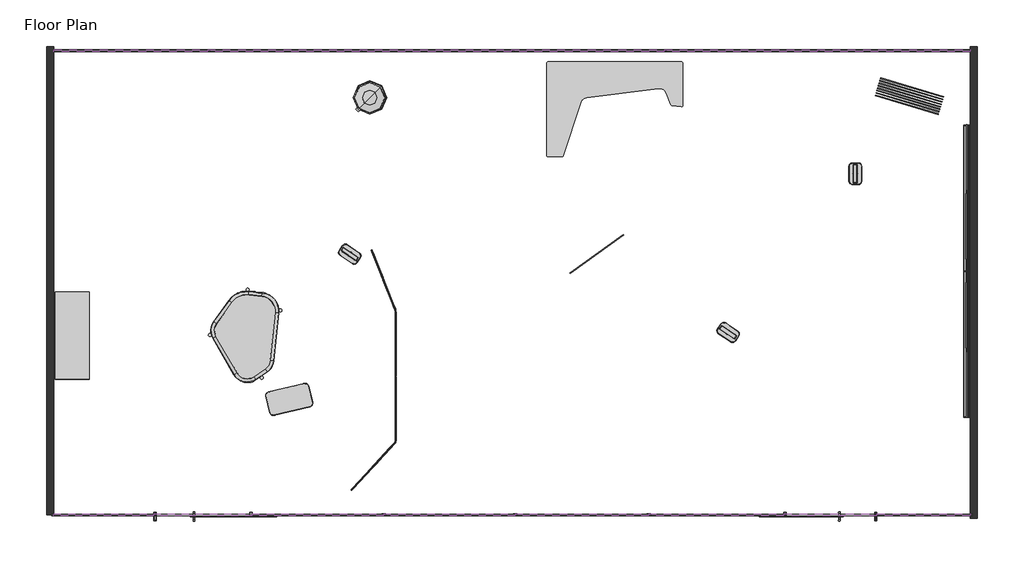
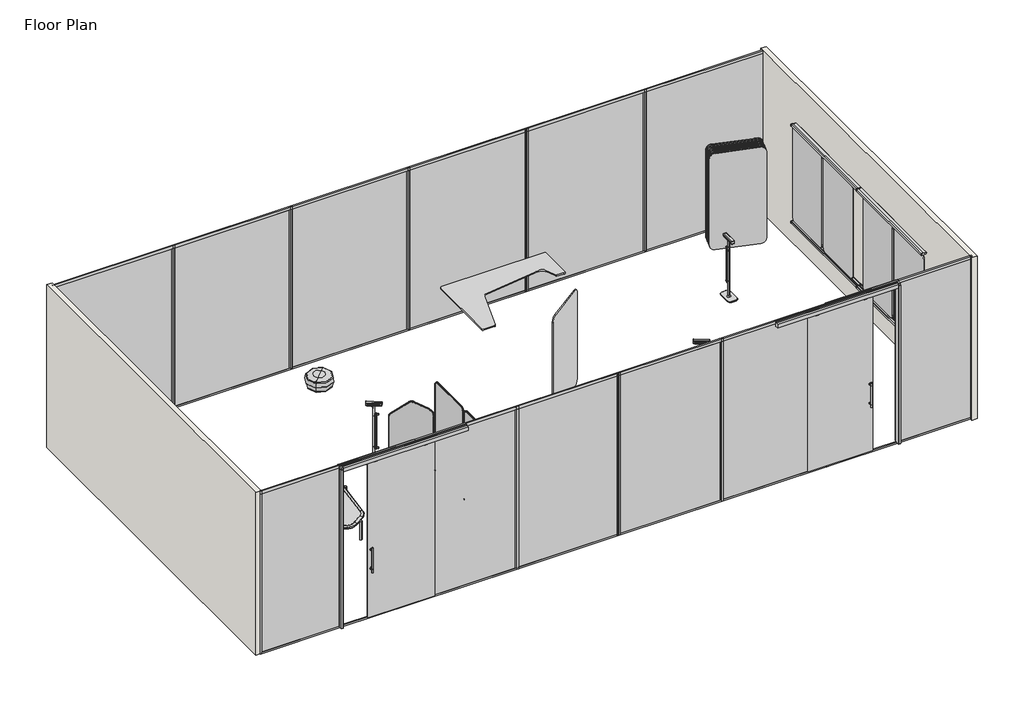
# One storey, incomplete: 29 furniture elements, 28 members, 14 plates, 2 walls.
"""IFC4 building model written with IfcOpenShell, lengths in millimetres."""

from ifc_helpers import new_model, si_unit, origin, origin_with_axes, place, context, project, spatial, polyline, outline, extrude, transform, mapped, element, save
from components import furniture_d2e51079, coffee_table_8e93f0d2, decor_door_e15c977f, footrest_3d02c9c8, steelcase_emea_flex_markerboard_tall_933f601b, steelcase_emea_flex_markerboard_tall_489af712, steelcase_emea_flex_screen_freestanding_angled_e22ecdc3, steelcase_emea_flex_screen_freestanding_short_9034ac6e, steelcase_emea_flex_wall_rails_1800h_6c3f3ac9, steelcase_emea_flex_wall_rails_1800h_d6aaea59, table_1_725a874a, tall_e2d5bbf9, wooden_leg_h150_7fd3a910, rectangular_mullion_c1dfd97e, rectangular_mullion_0724d02b, rectangular_mullion_766c7d85, rectangular_mullion_99bb5b20, rectangular_mullion_12d4d7d7, rectangular_mullion_3c61a903, rectangular_mullion_b213ceae, rectangular_mullion_d54b9081, rectangular_mullion_5fc4769d, rectangular_mullion_lite_scale_glazing_ceiling_track_7f29f42d, rectangular_mullion_lite_scale_glazing_ceiling_track_8b229d59, rectangular_mullion_lite_scale_glazing_ceiling_track_78d2ef61, rectangular_mullion_lite_scale_glazing_ceiling_track_bc57fc9f, rectangular_mullion_lite_scale_glazing_ceiling_track_1d171377, rectangular_mullion_lite_scale_glazing_ceiling_track_9d31619b, rectangular_mullion_lite_scale_glazing_ceiling_track_247b17cf, rectangular_mullion_lite_scale_glazing_ceiling_track_e914e820, rectangular_mullion_lite_scale_glazing_ceiling_track_eb9bd2f9, glass_door_9964f78d, glass_door_0c262cc2, steelcase_privacy_wall_gs_lite_scale_glazing_glass_a86f505f, steelcase_privacy_wall_gs_lite_scale_glazing_glass_b524abd1, steelcase_privacy_wall_gs_lite_scale_glazing_glass_143cb42d, steelcase_privacy_wall_gs_lite_scale_glazing_glass_9b0299d3, steelcase_privacy_wall_gs_lite_scale_glazing_glass_b0e38d0d, steelcase_privacy_wall_gs_lite_scale_glazing_glass_13d12927, steelcase_privacy_wall_gs_lite_scale_glazing_glass_f0b9d819, steelcase_privacy_wall_gs_lite_scale_glazing_glass_e867c78d, steelcase_privacy_wall_gs_lite_scale_glazing_glass_3fe1f831

model = new_model("IFC4")

# Units and contexts
model_context = context("Model", 3, world=origin())
ifc_project = project(units=[si_unit("LENGTHUNIT", "METRE", prefix="MILLI")], contexts=[model_context])

# Site, building, storey
site = spatial("IfcSite", under=ifc_project)
building = spatial("IfcBuilding", under=site)
storey = spatial("IfcBuildingStorey", under=building, Name="Floor Plan", Elevation=0.0)

# Furniture
placement = place(None, origin())
furniture_shape = furniture_d2e51079(model_context)
element("IfcFurniture", 1, ObjectType="Steelcase Coalesse EMEA - Lagunitas - Personal Table : 13D x 24W", at=placement, inside=storey, context=model_context, shape_type="MappedRepresentation", body=[
    mapped(furniture_shape, transform((919.0918551, -109304.5634449, 0.0), x_axis=(0.9734940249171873, 0.22871244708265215, 0.0), y_axis=(-0.22871244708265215, 0.9734940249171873, 0.0), z_axis=(0.0, 0.0, 1.0))),
])
coffee_table_shape = coffee_table_8e93f0d2(model_context)
element("IfcFurniture", 2, ObjectType="Bolia - Island - Coffee Table : Coffee Table", at=placement, inside=storey, context=model_context, shape_type="MappedRepresentation", body=[
    mapped(coffee_table_shape, transform((432.0856459, -108324.9960832, 0.0), x_axis=(-0.1579823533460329, 0.987441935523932, 0.0), y_axis=(-0.987441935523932, -0.1579823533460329, 0.0), z_axis=(0.0, 0.0, 1.0))),
])
decor_door_shape = decor_door_e15c977f(model_context)
element("IfcFurniture", 3, ObjectType="Steelcase EMEA - Volum Art - Cupboard - Credenza - Hinged Door : Decor Door", at=placement, inside=storey, context=model_context, shape_type="MappedRepresentation", body=[
    mapped(decor_door_shape, transform((-2057.37583, -108431.6462731, 122.7380685), x_axis=(0.0, 1.0, 0.0), y_axis=(-1.0, 0.0, 0.0), z_axis=(0.0, 0.0, 1.0))),
])
footrest_shape = footrest_3d02c9c8(model_context)
element("IfcFurniture", 4, ObjectType="Steelcase EMEA - Seating - Brody - Footrest : Footrest", at=placement, inside=storey, context=model_context, shape_type="MappedRepresentation", body=[
    mapped(footrest_shape, transform((2023.9309623, -105163.2231655, 0.0), x_axis=(1.0, 0.0, 0.0), y_axis=(0.0, 1.0, 0.0), z_axis=(0.0, 0.0, 1.0))),
])
steelcase_emea_flex_markerboard_tall_shape = steelcase_emea_flex_markerboard_tall_933f601b(model_context)
element("IfcFurniture", 5, ObjectType="Steelcase EMEA - Flex - Markerboard : Tall", at=placement, inside=storey, context=model_context, shape_type="MappedRepresentation", body=[
    mapped(steelcase_emea_flex_markerboard_tall_shape, transform((9885.8391666, -105161.5521744, 127.0), x_axis=(-0.9577805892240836, 0.28750016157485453, 0.0), y_axis=(-0.28750016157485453, -0.9577805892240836, 0.0), z_axis=(0.0, 0.0, 1.0))),
])
element("IfcFurniture", 6, ObjectType="Steelcase EMEA - Flex - Markerboard : Tall", at=placement, inside=storey, context=model_context, shape_type="MappedRepresentation", body=[
    mapped(steelcase_emea_flex_markerboard_tall_shape, transform((9875.5520513, -105195.8227616, 127.0), x_axis=(-0.9577805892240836, 0.28750016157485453, 0.0), y_axis=(-0.28750016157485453, -0.9577805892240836, 0.0), z_axis=(0.0, 0.0, 1.0))),
])
element("IfcFurniture", 7, ObjectType="Steelcase EMEA - Flex - Markerboard : Tall", at=placement, inside=storey, context=model_context, shape_type="MappedRepresentation", body=[
    mapped(steelcase_emea_flex_markerboard_tall_shape, transform((9865.381733, -105229.70425, 127.0), x_axis=(-0.9577805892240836, 0.28750016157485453, 0.0), y_axis=(-0.28750016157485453, -0.9577805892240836, 0.0), z_axis=(0.0, 0.0, 1.0))),
])
element("IfcFurniture", 8, ObjectType="Steelcase EMEA - Flex - Markerboard : Tall", at=placement, inside=storey, context=model_context, shape_type="MappedRepresentation", body=[
    mapped(steelcase_emea_flex_markerboard_tall_shape, transform((9855.310243, -105263.2565012, 127.0), x_axis=(-0.9577805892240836, 0.28750016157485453, 0.0), y_axis=(-0.28750016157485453, -0.9577805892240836, 0.0), z_axis=(0.0, 0.0, 1.0))),
])
element("IfcFurniture", 9, ObjectType="Steelcase EMEA - Flex - Markerboard : Tall", at=placement, inside=storey, context=model_context, shape_type="MappedRepresentation", body=[
    mapped(steelcase_emea_flex_markerboard_tall_shape, transform((9845.0950029, -105297.2876428, 127.0), x_axis=(-0.9577805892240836, 0.28750016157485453, 0.0), y_axis=(-0.28750016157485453, -0.9577805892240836, 0.0), z_axis=(0.0, 0.0, 1.0))),
])
element("IfcFurniture", 10, ObjectType="Steelcase EMEA - Flex - Markerboard : Tall", at=placement, inside=storey, context=model_context, shape_type="MappedRepresentation", body=[
    mapped(steelcase_emea_flex_markerboard_tall_shape, transform((9835.0235128, -105330.8398941, 127.0), x_axis=(-0.9577805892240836, 0.28750016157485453, 0.0), y_axis=(-0.28750016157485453, -0.9577805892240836, 0.0), z_axis=(0.0, 0.0, 1.0))),
])
element("IfcFurniture", 11, ObjectType="Steelcase EMEA - Flex - Markerboard : Tall", at=placement, inside=storey, context=model_context, shape_type="MappedRepresentation", body=[
    mapped(steelcase_emea_flex_markerboard_tall_shape, transform((9825.0688199, -105364.0030464, 127.0), x_axis=(-0.9577805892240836, 0.28750016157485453, 0.0), y_axis=(-0.28750016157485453, -0.9577805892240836, 0.0), z_axis=(0.0, 0.0, 1.0))),
])
element("IfcFurniture", 12, ObjectType="Steelcase EMEA - Flex - Markerboard : Tall", at=placement, inside=storey, context=model_context, shape_type="MappedRepresentation", body=[
    mapped(steelcase_emea_flex_markerboard_tall_shape, transform((9814.7817046, -105398.2736337, 127.0), x_axis=(-0.9577805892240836, 0.28750016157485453, 0.0), y_axis=(-0.28750016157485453, -0.9577805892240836, 0.0), z_axis=(0.0, 0.0, 1.0))),
])
element("IfcFurniture", 13, ObjectType="Steelcase EMEA - Flex - Markerboard : Tall", at=placement, inside=storey, context=model_context, shape_type="MappedRepresentation", body=[
    mapped(steelcase_emea_flex_markerboard_tall_shape, transform((4766.9744683, -107567.7024774, 0.0), x_axis=(0.8105980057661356, 0.5856029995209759, 0.0), y_axis=(-0.5856029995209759, 0.8105980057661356, 0.0), z_axis=(0.0, 0.0, 1.0))),
])
element("IfcFurniture", 14, ObjectType="Steelcase EMEA - Flex - Markerboard : Tall", at=placement, inside=storey, context=model_context, shape_type="MappedRepresentation", body=[
    mapped(steelcase_emea_flex_markerboard_tall_shape, transform((10199.3056017, -109552.0594285, 484.9937772), x_axis=(0.0, 1.0, 0.0), y_axis=(-1.0, 0.0, 0.0), z_axis=(0.0, 0.0, 1.0))),
])
element("IfcFurniture", 15, ObjectType="Steelcase EMEA - Flex - Markerboard : Tall", at=placement, inside=storey, context=model_context, shape_type="MappedRepresentation", body=[
    mapped(steelcase_emea_flex_markerboard_tall_shape, transform((10195.7415767, -108602.439998, 484.9937772), x_axis=(0.0, 1.0, 0.0), y_axis=(-1.0, 0.0, 0.0), z_axis=(0.0, 0.0, 1.0))),
])
steelcase_emea_flex_markerboard_tall_2_shape = steelcase_emea_flex_markerboard_tall_489af712(model_context)
element("IfcFurniture", 16, ObjectType="Steelcase EMEA - Flex - Markerboard : Tall", at=placement, inside=storey, context=model_context, shape_type="MappedRepresentation", body=[
    mapped(steelcase_emea_flex_markerboard_tall_2_shape, transform((10199.3056017, -105532.7619584, 484.9937772), x_axis=(0.0, -1.0, 0.0), y_axis=(1.0, 0.0, 0.0), z_axis=(0.0, 0.0, 1.0))),
])
element("IfcFurniture", 17, ObjectType="Steelcase EMEA - Flex - Markerboard : Tall", at=placement, inside=storey, context=model_context, shape_type="MappedRepresentation", body=[
    mapped(steelcase_emea_flex_markerboard_tall_2_shape, transform((10195.7415767, -106482.3813889, 484.9937772), x_axis=(0.0, -1.0, 0.0), y_axis=(1.0, 0.0, 0.0), z_axis=(0.0, 0.0, 1.0))),
])
steelcase_emea_flex_screen_freestanding_angled_shape = steelcase_emea_flex_screen_freestanding_angled_e22ecdc3(model_context)
element("IfcFurniture", 18, ObjectType="Steelcase EMEA - Flex - Screen - Freestanding : Angled", at=placement, inside=storey, context=model_context, shape_type="MappedRepresentation", body=[
    mapped(steelcase_emea_flex_screen_freestanding_angled_shape, transform((2378.6570299, -108091.2274946, 0.0), x_axis=(-0.36864778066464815, 0.9295691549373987, 0.0), y_axis=(-0.9295691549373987, -0.36864778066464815, 0.0), z_axis=(0.0, 0.0, 1.0))),
])
element("IfcFurniture", 19, ObjectType="Steelcase EMEA - Flex - Screen - Freestanding : Angled", at=placement, inside=storey, context=model_context, shape_type="MappedRepresentation", body=[
    mapped(steelcase_emea_flex_screen_freestanding_angled_shape, transform((2379.6084787, -109887.2504267, 0.0), x_axis=(-0.6757246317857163, -0.7371541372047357, 0.0), y_axis=(0.7371541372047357, -0.6757246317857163, 0.0), z_axis=(0.0, 0.0, 1.0))),
])
steelcase_emea_flex_screen_freestanding_short_shape = steelcase_emea_flex_screen_freestanding_short_9034ac6e(model_context)
element("IfcFurniture", 20, ObjectType="Steelcase EMEA - Flex - Screen - Freestanding : Short", at=placement, inside=storey, context=model_context, shape_type="MappedRepresentation", body=[
    mapped(steelcase_emea_flex_screen_freestanding_short_shape, transform((2376.777532, -109885.6061825, 0.0), x_axis=(0.0, 1.0, 0.0), y_axis=(-1.0, 0.0, 0.0), z_axis=(0.0, 0.0, 1.0))),
])
element("IfcFurniture", 21, ObjectType="Steelcase EMEA - Flex - Screen - Freestanding : Short", at=placement, inside=storey, context=model_context, shape_type="MappedRepresentation", body=[
    mapped(steelcase_emea_flex_screen_freestanding_short_shape, transform((2376.777532, -108994.6677502, 0.0), x_axis=(0.0, 1.0, 0.0), y_axis=(-1.0, 0.0, 0.0), z_axis=(0.0, 0.0, 1.0))),
])
steelcase_emea_flex_wall_rails_1800h_shape = steelcase_emea_flex_wall_rails_1800h_6c3f3ac9(model_context)
element("IfcFurniture", 22, ObjectType="Steelcase EMEA - Flex - Wall Rails : 1800H", at=placement, inside=storey, context=model_context, shape_type="MappedRepresentation", body=[
    mapped(steelcase_emea_flex_wall_rails_1800h_shape, transform((10163.991601, -109552.0594285, 0.0), x_axis=(0.0, 1.0, 0.0), y_axis=(-1.0, 0.0, 0.0), z_axis=(0.0, 0.0, 1.0))),
])
steelcase_emea_flex_wall_rails_1800h_2_shape = steelcase_emea_flex_wall_rails_1800h_d6aaea59(model_context)
element("IfcFurniture", 23, ObjectType="Steelcase EMEA - Flex - Wall Rails : 1800H", at=placement, inside=storey, context=model_context, shape_type="MappedRepresentation", body=[
    mapped(steelcase_emea_flex_wall_rails_1800h_2_shape, transform((10163.991601, -105542.7619584, 0.0), x_axis=(0.0, -1.0, 0.0), y_axis=(1.0, 0.0, 0.0), z_axis=(0.0, 0.0, 1.0))),
])
table_1_shape = table_1_725a874a(model_context)
element("IfcFurniture", 24, ObjectType="Orangebox_EM_SpaceDivision_Pod_Air3_Furniture_Table_Minipod : Table 1", at=placement, inside=storey, context=model_context, shape_type="MappedRepresentation", body=[
    mapped(table_1_shape, transform((4447.561739, -104651.8114665, 0.0), x_axis=(1.0, 0.0, 0.0), y_axis=(0.0, 1.0, 0.0), z_axis=(0.0, 0.0, 1.0))),
])
tall_shape = tall_e2d5bbf9(model_context)
element("IfcFurniture", 25, ObjectType="Steelcase EMEA - Flex - Powerstand : Tall", at=placement, inside=storey, context=model_context, shape_type="MappedRepresentation", body=[
    mapped(tall_shape, transform((8679.422102, -106209.3785576, 0.0), x_axis=(0.0, 1.0, 0.0), y_axis=(-1.0, 0.0, 0.0), z_axis=(0.0, 0.0, 1.0))),
])
element("IfcFurniture", 26, ObjectType="Steelcase EMEA - Flex - Powerstand : Tall", at=placement, inside=storey, context=model_context, shape_type="MappedRepresentation", body=[
    mapped(tall_shape, transform((6935.2514477, -108385.4562743, 0.0), x_axis=(0.8311951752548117, -0.5559807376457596, 0.0), y_axis=(0.5559807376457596, 0.8311951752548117, 0.0), z_axis=(0.0, 0.0, 1.0))),
])
element("IfcFurniture", 27, ObjectType="Steelcase EMEA - Flex - Powerstand : Tall", at=placement, inside=storey, context=model_context, shape_type="MappedRepresentation", body=[
    mapped(tall_shape, transform((1748.2210614, -107312.8270945, 0.0), x_axis=(0.8311951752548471, -0.5559807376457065, 0.0), y_axis=(0.5559807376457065, 0.8311951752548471, 0.0), z_axis=(0.0, 0.0, 1.0))),
])
wooden_leg_h150_shape = wooden_leg_h150_7fd3a910(model_context)
element("IfcFurniture", 28, ObjectType="Steelcase EMEA - Volum Art - Accessories - Leg : Wooden Leg H150", at=placement, inside=storey, context=model_context, shape_type="MappedRepresentation", body=[
    mapped(wooden_leg_h150_shape, transform((-2292.37583, -108019.341485, 0.0), x_axis=(0.0, 1.0, 0.0), y_axis=(-1.0, 0.0, 0.0), z_axis=(0.0, 0.0, 1.0))),
])
element("IfcFurniture", 29, ObjectType="Steelcase EMEA - Volum Art - Accessories - Leg : Wooden Leg H150", at=placement, inside=storey, context=model_context, shape_type="MappedRepresentation", body=[
    mapped(wooden_leg_h150_shape, transform((-2291.3758417, -109021.8129418, 0.0), x_axis=(0.0, 1.0, 0.0), y_axis=(-1.0, 0.0, 0.0), z_axis=(0.0, 0.0, 1.0))),
])

# Members
rectangular_mullion_shape = rectangular_mullion_c1dfd97e(model_context)
element("IfcMember", 30, ObjectType="Rectangular Mullion : Lite Scale Glasing - Base Trim", at=placement, inside=storey, context=model_context, shape_type="MappedRepresentation", body=[
    mapped(rectangular_mullion_shape, transform((-2308.4050434, -110889.9930941, 0.0), x_axis=(0.0, 0.0, -1.0), y_axis=(0.0, -1.0, 0.0), z_axis=(-1.0, 0.0, 0.0))),
])
rectangular_mullion_2_shape = rectangular_mullion_0724d02b(model_context)
element("IfcMember", 31, ObjectType="Rectangular Mullion : Lite Scale Glasing - Base Trim", at=placement, inside=storey, context=model_context, shape_type="MappedRepresentation", body=[
    mapped(rectangular_mullion_2_shape, transform((-936.8050434, -110889.9930941, 0.0), x_axis=(0.0, 0.0, -1.0), y_axis=(0.0, -1.0, 0.0), z_axis=(-1.0, 0.0, 0.0))),
])
rectangular_mullion_3_shape = rectangular_mullion_766c7d85(model_context)
element("IfcMember", 32, ObjectType="Rectangular Mullion : Lite Scale Glasing - Base Trim", at=placement, inside=storey, context=model_context, shape_type="MappedRepresentation", body=[
    mapped(rectangular_mullion_3_shape, transform((409.3949566, -110889.9930941, 0.0), x_axis=(0.0, 0.0, -1.0), y_axis=(0.0, -1.0, 0.0), z_axis=(-1.0, 0.0, 0.0))),
])
element("IfcMember", 33, ObjectType="Rectangular Mullion : Lite Scale Glasing - Base Trim", at=placement, inside=storey, context=model_context, shape_type="MappedRepresentation", body=[
    mapped(rectangular_mullion_3_shape, transform((2212.7949566, -110889.9930941, 0.0), x_axis=(0.0, 0.0, -1.0), y_axis=(0.0, -1.0, 0.0), z_axis=(-1.0, 0.0, 0.0))),
])
rectangular_mullion_4_shape = rectangular_mullion_99bb5b20(model_context)
element("IfcMember", 34, ObjectType="Rectangular Mullion : Lite Scale Glasing - Base Trim", at=placement, inside=storey, context=model_context, shape_type="MappedRepresentation", body=[
    mapped(rectangular_mullion_4_shape, transform((4016.1949566, -110889.9930941, 0.0), x_axis=(0.0, 0.0, -1.0), y_axis=(0.0, -1.0, 0.0), z_axis=(-1.0, 0.0, 0.0))),
])
rectangular_mullion_5_shape = rectangular_mullion_12d4d7d7(model_context)
element("IfcMember", 35, ObjectType="Rectangular Mullion : Lite Scale Glasing - Base Trim", at=placement, inside=storey, context=model_context, shape_type="MappedRepresentation", body=[
    mapped(rectangular_mullion_5_shape, transform((5844.9949566, -110889.9930941, 0.0), x_axis=(0.0, 0.0, -1.0), y_axis=(0.0, -1.0, 0.0), z_axis=(-1.0, 0.0, 0.0))),
])
rectangular_mullion_6_shape = rectangular_mullion_3c61a903(model_context)
element("IfcMember", 36, ObjectType="Rectangular Mullion : Lite Scale Glasing - Base Trim", at=placement, inside=storey, context=model_context, shape_type="MappedRepresentation", body=[
    mapped(rectangular_mullion_6_shape, transform((8976.5766061, -110889.9930941, 0.0), x_axis=(0.0, 0.0, -1.0), y_axis=(0.0, -1.0, 0.0), z_axis=(-1.0, 0.0, 0.0))),
])
element("IfcMember", 37, ObjectType="Rectangular Mullion : Lite Scale Glasing - Base Trim", at=placement, inside=storey, context=model_context, shape_type="MappedRepresentation", body=[
    mapped(rectangular_mullion_6_shape, transform((7699.1949566, -110889.9930941, 0.0), x_axis=(0.0, 0.0, -1.0), y_axis=(0.0, -1.0, 0.0), z_axis=(-1.0, 0.0, 0.0))),
])
rectangular_mullion_7_shape = rectangular_mullion_b213ceae(model_context)
element("IfcMember", 38, ObjectType="Rectangular Mullion : Lite Scale Glasing - Base Trim", at=placement, inside=storey, context=model_context, shape_type="MappedRepresentation", body=[
    mapped(rectangular_mullion_7_shape, transform((-2308.4050434, -104520.8121728, 0.0), x_axis=(0.0, 0.0, -1.0), y_axis=(0.0, -1.0, 0.0), z_axis=(-1.0, 0.0, 0.0))),
])
rectangular_mullion_8_shape = rectangular_mullion_d54b9081(model_context)
element("IfcMember", 39, ObjectType="Rectangular Mullion : Lite Scale Glasing - Base Trim", at=placement, inside=storey, context=model_context, shape_type="MappedRepresentation", body=[
    mapped(rectangular_mullion_8_shape, transform((-200.2050434, -104520.8121728, 0.0), x_axis=(0.0, 0.0, -1.0), y_axis=(0.0, -1.0, 0.0), z_axis=(-1.0, 0.0, 0.0))),
])
element("IfcMember", 40, ObjectType="Rectangular Mullion : Lite Scale Glasing - Base Trim", at=placement, inside=storey, context=model_context, shape_type="MappedRepresentation", body=[
    mapped(rectangular_mullion_8_shape, transform((1882.5949566, -104520.8121728, 0.0), x_axis=(0.0, 0.0, -1.0), y_axis=(0.0, -1.0, 0.0), z_axis=(-1.0, 0.0, 0.0))),
])
rectangular_mullion_9_shape = rectangular_mullion_5fc4769d(model_context)
element("IfcMember", 41, ObjectType="Rectangular Mullion : Lite Scale Glasing - Base Trim", at=placement, inside=storey, context=model_context, shape_type="MappedRepresentation", body=[
    mapped(rectangular_mullion_9_shape, transform((3965.3949566, -104520.8121728, 0.0), x_axis=(0.0, 0.0, -1.0), y_axis=(0.0, -1.0, 0.0), z_axis=(-1.0, 0.0, 0.0))),
])
element("IfcMember", 42, ObjectType="Rectangular Mullion : Lite Scale Glasing - Base Trim", at=placement, inside=storey, context=model_context, shape_type="MappedRepresentation", body=[
    mapped(rectangular_mullion_9_shape, transform((6061.5827229, -104520.8121728, 0.0), x_axis=(0.0, 0.0, -1.0), y_axis=(0.0, -1.0, 0.0), z_axis=(-1.0, 0.0, 0.0))),
])
element("IfcMember", 43, ObjectType="Rectangular Mullion : Lite Scale Glasing - Base Trim", at=placement, inside=storey, context=model_context, shape_type="MappedRepresentation", body=[
    mapped(rectangular_mullion_9_shape, transform((8157.7704892, -104520.8121728, 0.0), x_axis=(0.0, 0.0, -1.0), y_axis=(0.0, -1.0, 0.0), z_axis=(-1.0, 0.0, 0.0))),
])
rectangular_mullion_lite_scale_glazing_ceiling_track_shape = rectangular_mullion_lite_scale_glazing_ceiling_track_7f29f42d(model_context)
element("IfcMember", 44, ObjectType="Rectangular Mullion : Lite Scale Glazing - Ceiling Track", at=placement, inside=storey, context=model_context, shape_type="MappedRepresentation", body=[
    mapped(rectangular_mullion_lite_scale_glazing_ceiling_track_shape, transform((-936.8050434, -110889.9930941, 3048.0), x_axis=(0.0, 0.0, 1.0), y_axis=(0.0, -1.0, 0.0), z_axis=(1.0, 0.0, 0.0))),
])
rectangular_mullion_lite_scale_glazing_ceiling_track_2_shape = rectangular_mullion_lite_scale_glazing_ceiling_track_8b229d59(model_context)
element("IfcMember", 45, ObjectType="Rectangular Mullion : Lite Scale Glazing - Ceiling Track", at=placement, inside=storey, context=model_context, shape_type="MappedRepresentation", body=[
    mapped(rectangular_mullion_lite_scale_glazing_ceiling_track_2_shape, transform((409.3949566, -110889.9930941, 3048.0), x_axis=(0.0, 0.0, 1.0), y_axis=(0.0, -1.0, 0.0), z_axis=(1.0, 0.0, 0.0))),
])
rectangular_mullion_lite_scale_glazing_ceiling_track_3_shape = rectangular_mullion_lite_scale_glazing_ceiling_track_78d2ef61(model_context)
element("IfcMember", 46, ObjectType="Rectangular Mullion : Lite Scale Glazing - Ceiling Track", at=placement, inside=storey, context=model_context, shape_type="MappedRepresentation", body=[
    mapped(rectangular_mullion_lite_scale_glazing_ceiling_track_3_shape, transform((2212.7949566, -110889.9930941, 3048.0), x_axis=(0.0, 0.0, 1.0), y_axis=(0.0, -1.0, 0.0), z_axis=(1.0, 0.0, 0.0))),
])
element("IfcMember", 47, ObjectType="Rectangular Mullion : Lite Scale Glazing - Ceiling Track", at=placement, inside=storey, context=model_context, shape_type="MappedRepresentation", body=[
    mapped(rectangular_mullion_lite_scale_glazing_ceiling_track_3_shape, transform((4016.1949566, -110889.9930941, 3048.0), x_axis=(0.0, 0.0, 1.0), y_axis=(0.0, -1.0, 0.0), z_axis=(1.0, 0.0, 0.0))),
])
rectangular_mullion_lite_scale_glazing_ceiling_track_4_shape = rectangular_mullion_lite_scale_glazing_ceiling_track_bc57fc9f(model_context)
element("IfcMember", 48, ObjectType="Rectangular Mullion : Lite Scale Glazing - Ceiling Track", at=placement, inside=storey, context=model_context, shape_type="MappedRepresentation", body=[
    mapped(rectangular_mullion_lite_scale_glazing_ceiling_track_4_shape, transform((5844.9949566, -110889.9930941, 3048.0), x_axis=(0.0, 0.0, 1.0), y_axis=(0.0, -1.0, 0.0), z_axis=(1.0, 0.0, 0.0))),
])
rectangular_mullion_lite_scale_glazing_ceiling_track_5_shape = rectangular_mullion_lite_scale_glazing_ceiling_track_1d171377(model_context)
element("IfcMember", 49, ObjectType="Rectangular Mullion : Lite Scale Glazing - Ceiling Track", at=placement, inside=storey, context=model_context, shape_type="MappedRepresentation", body=[
    mapped(rectangular_mullion_lite_scale_glazing_ceiling_track_5_shape, transform((7699.1949566, -110889.9930941, 3048.0), x_axis=(0.0, 0.0, 1.0), y_axis=(0.0, -1.0, 0.0), z_axis=(1.0, 0.0, 0.0))),
])
rectangular_mullion_lite_scale_glazing_ceiling_track_6_shape = rectangular_mullion_lite_scale_glazing_ceiling_track_9d31619b(model_context)
element("IfcMember", 50, ObjectType="Rectangular Mullion : Lite Scale Glazing - Ceiling Track", at=placement, inside=storey, context=model_context, shape_type="MappedRepresentation", body=[
    mapped(rectangular_mullion_lite_scale_glazing_ceiling_track_6_shape, transform((10253.9582555, -110889.9930941, 3048.0), x_axis=(0.0, 0.0, 1.0), y_axis=(0.0, -1.0, 0.0), z_axis=(1.0, 0.0, 0.0))),
])
element("IfcMember", 51, ObjectType="Rectangular Mullion : Lite Scale Glazing - Ceiling Track", at=placement, inside=storey, context=model_context, shape_type="MappedRepresentation", body=[
    mapped(rectangular_mullion_lite_scale_glazing_ceiling_track_6_shape, transform((8976.5766061, -110889.9930941, 3048.0), x_axis=(0.0, 0.0, 1.0), y_axis=(0.0, -1.0, 0.0), z_axis=(1.0, 0.0, 0.0))),
])
rectangular_mullion_lite_scale_glazing_ceiling_track_7_shape = rectangular_mullion_lite_scale_glazing_ceiling_track_247b17cf(model_context)
element("IfcMember", 52, ObjectType="Rectangular Mullion : Lite Scale Glazing - Ceiling Track", at=placement, inside=storey, context=model_context, shape_type="MappedRepresentation", body=[
    mapped(rectangular_mullion_lite_scale_glazing_ceiling_track_7_shape, transform((-200.2050434, -104520.8121728, 3048.0), x_axis=(0.0, 0.0, 1.0), y_axis=(0.0, -1.0, 0.0), z_axis=(1.0, 0.0, 0.0))),
])
rectangular_mullion_lite_scale_glazing_ceiling_track_8_shape = rectangular_mullion_lite_scale_glazing_ceiling_track_e914e820(model_context)
element("IfcMember", 53, ObjectType="Rectangular Mullion : Lite Scale Glazing - Ceiling Track", at=placement, inside=storey, context=model_context, shape_type="MappedRepresentation", body=[
    mapped(rectangular_mullion_lite_scale_glazing_ceiling_track_8_shape, transform((1882.5949566, -104520.8121728, 3048.0), x_axis=(0.0, 0.0, 1.0), y_axis=(0.0, -1.0, 0.0), z_axis=(1.0, 0.0, 0.0))),
])
element("IfcMember", 54, ObjectType="Rectangular Mullion : Lite Scale Glazing - Ceiling Track", at=placement, inside=storey, context=model_context, shape_type="MappedRepresentation", body=[
    mapped(rectangular_mullion_lite_scale_glazing_ceiling_track_8_shape, transform((3965.3949566, -104520.8121728, 3048.0), x_axis=(0.0, 0.0, 1.0), y_axis=(0.0, -1.0, 0.0), z_axis=(1.0, 0.0, 0.0))),
])
rectangular_mullion_lite_scale_glazing_ceiling_track_9_shape = rectangular_mullion_lite_scale_glazing_ceiling_track_eb9bd2f9(model_context)
element("IfcMember", 55, ObjectType="Rectangular Mullion : Lite Scale Glazing - Ceiling Track", at=placement, inside=storey, context=model_context, shape_type="MappedRepresentation", body=[
    mapped(rectangular_mullion_lite_scale_glazing_ceiling_track_9_shape, transform((6061.5827229, -104520.8121728, 3048.0), x_axis=(0.0, 0.0, 1.0), y_axis=(0.0, -1.0, 0.0), z_axis=(1.0, 0.0, 0.0))),
])
element("IfcMember", 56, ObjectType="Rectangular Mullion : Lite Scale Glazing - Ceiling Track", at=placement, inside=storey, context=model_context, shape_type="MappedRepresentation", body=[
    mapped(rectangular_mullion_lite_scale_glazing_ceiling_track_9_shape, transform((8157.7704892, -104520.8121728, 3048.0), x_axis=(0.0, 0.0, 1.0), y_axis=(0.0, -1.0, 0.0), z_axis=(1.0, 0.0, 0.0))),
])
element("IfcMember", 57, ObjectType="Rectangular Mullion : Lite Scale Glazing - Ceiling Track", at=placement, inside=storey, context=model_context, shape_type="MappedRepresentation", body=[
    mapped(rectangular_mullion_lite_scale_glazing_ceiling_track_9_shape, transform((10253.9582555, -104520.8121728, 3048.0), x_axis=(0.0, 0.0, 1.0), y_axis=(0.0, -1.0, 0.0), z_axis=(1.0, 0.0, 0.0))),
])

# Plates
glass_door_shape = glass_door_9964f78d(model_context)
element("IfcPlate", 58, ObjectType="Steelcase - Privacy Wall GS - Lite Scale Glazing - Door - Slider - All Glass : Glass Door", at=placement, inside=storey, context=model_context, shape_type="MappedRepresentation", body=[
    mapped(glass_door_shape, transform((8337.8857814, -110889.9930941, 27.94), x_axis=(1.0, 0.0, 0.0), y_axis=(0.0, 1.0, 0.0), z_axis=(0.0, 0.0, 1.0))),
])
glass_door_2_shape = glass_door_0c262cc2(model_context)
element("IfcPlate", 59, ObjectType="Steelcase - Privacy Wall GS - Lite Scale Glazing - Door - Slider - All Glass : Glass Door", at=placement, inside=storey, context=model_context, shape_type="MappedRepresentation", body=[
    mapped(glass_door_2_shape, transform((-263.7050434, -110889.9930941, 27.94), x_axis=(-1.0, 0.0, 0.0), y_axis=(0.0, -1.0, 0.0), z_axis=(0.0, 0.0, 1.0))),
])
steelcase_privacy_wall_gs_lite_scale_glazing_glass_shape = steelcase_privacy_wall_gs_lite_scale_glazing_glass_a86f505f(model_context)
element("IfcPlate", 60, ObjectType="Steelcase - Privacy Wall GS - Lite Scale Glazing : Glass", at=placement, inside=storey, context=model_context, shape_type="MappedRepresentation", body=[
    mapped(steelcase_privacy_wall_gs_lite_scale_glazing_glass_shape, transform((3114.4949566, -110889.9930941, 27.94), x_axis=(1.0, 0.0, 0.0), y_axis=(0.0, 1.0, 0.0), z_axis=(0.0, 0.0, 1.0))),
])
steelcase_privacy_wall_gs_lite_scale_glazing_glass_2_shape = steelcase_privacy_wall_gs_lite_scale_glazing_glass_b524abd1(model_context)
element("IfcPlate", 61, ObjectType="Steelcase - Privacy Wall GS - Lite Scale Glazing : Glass", at=placement, inside=storey, context=model_context, shape_type="MappedRepresentation", body=[
    mapped(steelcase_privacy_wall_gs_lite_scale_glazing_glass_2_shape, transform((1311.0949566, -110889.9930941, 27.94), x_axis=(1.0, 0.0, 0.0), y_axis=(0.0, 1.0, 0.0), z_axis=(0.0, 0.0, 1.0))),
])
steelcase_privacy_wall_gs_lite_scale_glazing_glass_3_shape = steelcase_privacy_wall_gs_lite_scale_glazing_glass_143cb42d(model_context)
element("IfcPlate", 62, ObjectType="Steelcase - Privacy Wall GS - Lite Scale Glazing : Glass", at=placement, inside=storey, context=model_context, shape_type="MappedRepresentation", body=[
    mapped(steelcase_privacy_wall_gs_lite_scale_glazing_glass_3_shape, transform((6772.0949566, -110889.9930941, 27.94), x_axis=(1.0, 0.0, 0.0), y_axis=(0.0, 1.0, 0.0), z_axis=(0.0, 0.0, 1.0))),
])
steelcase_privacy_wall_gs_lite_scale_glazing_glass_4_shape = steelcase_privacy_wall_gs_lite_scale_glazing_glass_9b0299d3(model_context)
element("IfcPlate", 63, ObjectType="Steelcase - Privacy Wall GS - Lite Scale Glazing : Glass", at=placement, inside=storey, context=model_context, shape_type="MappedRepresentation", body=[
    mapped(steelcase_privacy_wall_gs_lite_scale_glazing_glass_4_shape, transform((9615.2674308, -110889.9930941, 27.94), x_axis=(1.0, 0.0, 0.0), y_axis=(0.0, 1.0, 0.0), z_axis=(0.0, 0.0, 1.0))),
])
steelcase_privacy_wall_gs_lite_scale_glazing_glass_5_shape = steelcase_privacy_wall_gs_lite_scale_glazing_glass_b0e38d0d(model_context)
element("IfcPlate", 64, ObjectType="Steelcase - Privacy Wall GS - Lite Scale Glazing : Glass", at=placement, inside=storey, context=model_context, shape_type="MappedRepresentation", body=[
    mapped(steelcase_privacy_wall_gs_lite_scale_glazing_glass_5_shape, transform((4930.5949566, -110889.9930941, 27.94), x_axis=(1.0, 0.0, 0.0), y_axis=(0.0, 1.0, 0.0), z_axis=(0.0, 0.0, 1.0))),
])
steelcase_privacy_wall_gs_lite_scale_glazing_glass_6_shape = steelcase_privacy_wall_gs_lite_scale_glazing_glass_13d12927(model_context)
element("IfcPlate", 65, ObjectType="Steelcase - Privacy Wall GS - Lite Scale Glazing : Glass", at=placement, inside=storey, context=model_context, shape_type="MappedRepresentation", body=[
    mapped(steelcase_privacy_wall_gs_lite_scale_glazing_glass_6_shape, transform((-1622.6050434, -110889.9930941, 27.94), x_axis=(1.0, 0.0, 0.0), y_axis=(0.0, 1.0, 0.0), z_axis=(0.0, 0.0, 1.0))),
])
steelcase_privacy_wall_gs_lite_scale_glazing_glass_7_shape = steelcase_privacy_wall_gs_lite_scale_glazing_glass_f0b9d819(model_context)
element("IfcPlate", 66, ObjectType="Steelcase - Privacy Wall GS - Lite Scale Glazing : Glass", at=placement, inside=storey, context=model_context, shape_type="MappedRepresentation", body=[
    mapped(steelcase_privacy_wall_gs_lite_scale_glazing_glass_7_shape, transform((-1254.3050434, -104520.8121728, 27.94), x_axis=(1.0, 0.0, 0.0), y_axis=(0.0, 1.0, 0.0), z_axis=(0.0, 0.0, 1.0))),
])
steelcase_privacy_wall_gs_lite_scale_glazing_glass_8_shape = steelcase_privacy_wall_gs_lite_scale_glazing_glass_e867c78d(model_context)
element("IfcPlate", 67, ObjectType="Steelcase - Privacy Wall GS - Lite Scale Glazing : Glass", at=placement, inside=storey, context=model_context, shape_type="MappedRepresentation", body=[
    mapped(steelcase_privacy_wall_gs_lite_scale_glazing_glass_8_shape, transform((841.1949566, -104520.8121728, 27.94), x_axis=(1.0, 0.0, 0.0), y_axis=(0.0, 1.0, 0.0), z_axis=(0.0, 0.0, 1.0))),
])
element("IfcPlate", 68, ObjectType="Steelcase - Privacy Wall GS - Lite Scale Glazing : Glass", at=placement, inside=storey, context=model_context, shape_type="MappedRepresentation", body=[
    mapped(steelcase_privacy_wall_gs_lite_scale_glazing_glass_8_shape, transform((2923.9949566, -104520.8121728, 27.94), x_axis=(1.0, 0.0, 0.0), y_axis=(0.0, 1.0, 0.0), z_axis=(0.0, 0.0, 1.0))),
])
steelcase_privacy_wall_gs_lite_scale_glazing_glass_9_shape = steelcase_privacy_wall_gs_lite_scale_glazing_glass_3fe1f831(model_context)
element("IfcPlate", 69, ObjectType="Steelcase - Privacy Wall GS - Lite Scale Glazing : Glass", at=placement, inside=storey, context=model_context, shape_type="MappedRepresentation", body=[
    mapped(steelcase_privacy_wall_gs_lite_scale_glazing_glass_9_shape, transform((5013.4888398, -104520.8121728, 27.94), x_axis=(1.0, 0.0, 0.0), y_axis=(0.0, 1.0, 0.0), z_axis=(0.0, 0.0, 1.0))),
])
element("IfcPlate", 70, ObjectType="Steelcase - Privacy Wall GS - Lite Scale Glazing : Glass", at=placement, inside=storey, context=model_context, shape_type="MappedRepresentation", body=[
    mapped(steelcase_privacy_wall_gs_lite_scale_glazing_glass_9_shape, transform((7109.6766061, -104520.8121728, 27.94), x_axis=(1.0, 0.0, 0.0), y_axis=(0.0, 1.0, 0.0), z_axis=(0.0, 0.0, 1.0))),
])
element("IfcPlate", 71, ObjectType="Steelcase - Privacy Wall GS - Lite Scale Glazing : Glass", at=placement, inside=storey, context=model_context, shape_type="MappedRepresentation", body=[
    mapped(steelcase_privacy_wall_gs_lite_scale_glazing_glass_9_shape, transform((9205.8643724, -104520.8121728, 27.94), x_axis=(1.0, 0.0, 0.0), y_axis=(0.0, 1.0, 0.0), z_axis=(0.0, 0.0, 1.0))),
])

# Walls
element("IfcWall", 72, ObjectType="Exposed - 100mm", at=placement, inside=storey, context=model_context, shape_type="SweptSolid", body=[
    extrude(outline(polyline([(-2308.4050434, -104463.7930941), (-2308.4050434, -110889.9930941), (-2408.4050434, -110889.9930941), (-2408.4050434, -104463.7930941), (-2308.4050434, -104463.7930941)])), origin_with_axes(), (0.0, 0.0, 1.0), 3048.0),
])
element("IfcWall", 73, ObjectType="Exposed - 100mm", at=placement, inside=storey, context=model_context, shape_type="SweptSolid", body=[
    extrude(outline(polyline([(10353.9582555, -104462.9938278), (10353.9582555, -110939.9938278), (10253.9582555, -110939.9938278), (10253.9582555, -104462.9938278), (10353.9582555, -104462.9938278)])), origin_with_axes(), (0.0, 0.0, 1.0), 3048.0),
])

save(model, "model.ifc")
